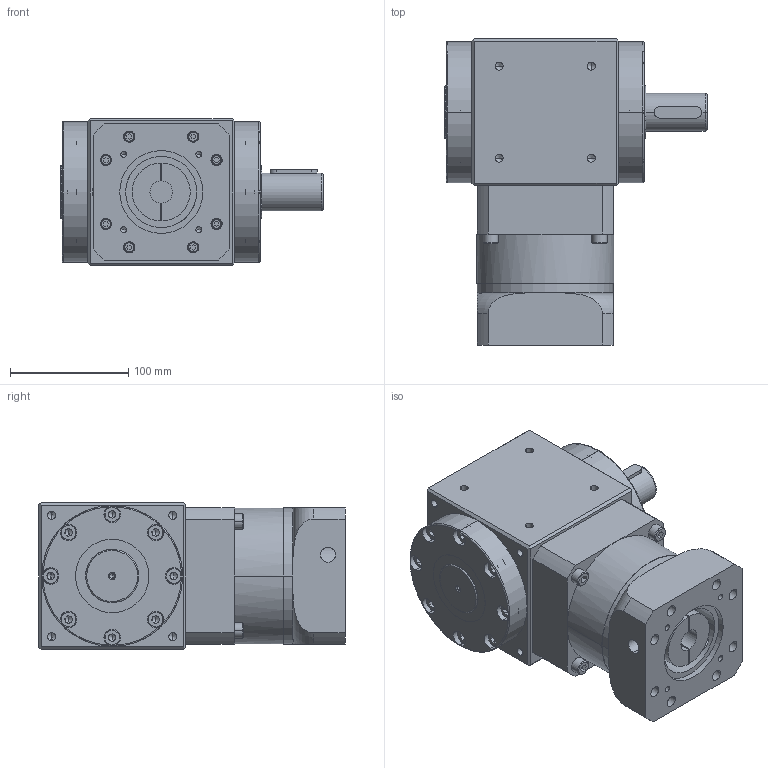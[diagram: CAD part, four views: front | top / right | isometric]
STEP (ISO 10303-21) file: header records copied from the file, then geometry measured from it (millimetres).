
FILE_DESCRIPTION (( 'STEP AP214' ), '1' );
FILE_NAME ('RAH120-L1-XX-S-19-70-90-M6_2019.STEP', '2019-03-27T07:35:28', ( 'Y' ), ( 'NCU' ), 'SwSTEP 2.0', 'SolidWorks 2016', '' );
FILE_SCHEMA (( 'AUTOMOTIVE_DESIGN' ));
Length unit declared in the file: millimetre
Products named in the file (1): RAH120-L1-XX-S-19-70-90-M6_2019
Bounding box: 222 x 258.8 x 124 mm (x, y, z)
Volume: 3930899 mm3; surface area: 270074.8 mm2
Topology: 3 solids, 28 shells, 857 faces, 2001 edges, 1219 vertices
Faces by surface type: plane 434, cylinder 263, cone 114, torus 46
Entity records: 27970 total; most frequent: CARTESIAN_POINT 7140, DIRECTION 4349, ORIENTED_EDGE 3830, EDGE_CURVE 1915, AXIS2_PLACEMENT_3D 1648, VERTEX_POINT 1219, VECTOR 1053, LINE 1053
